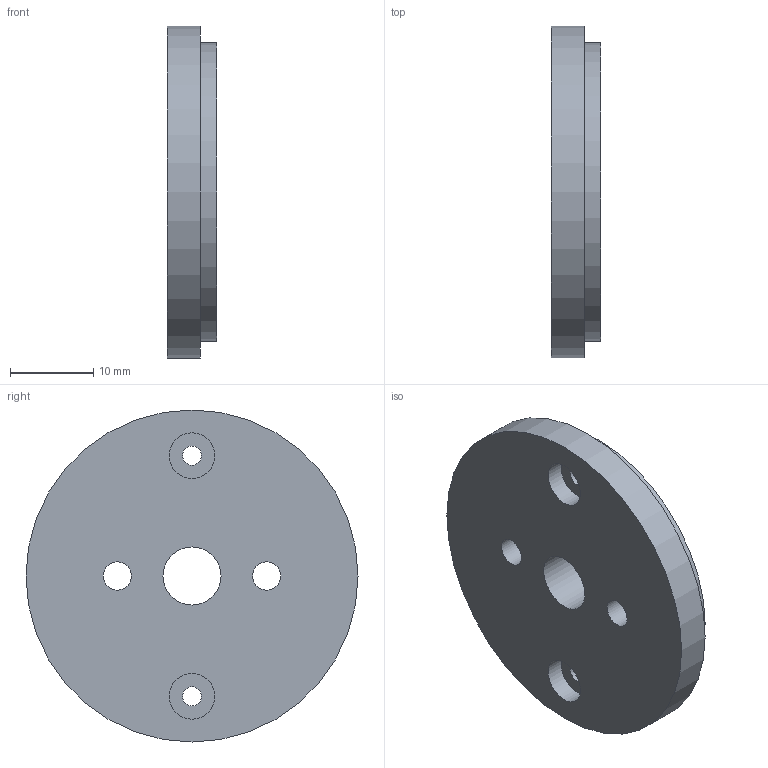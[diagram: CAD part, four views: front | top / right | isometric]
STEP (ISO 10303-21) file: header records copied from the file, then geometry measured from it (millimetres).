
FILE_DESCRIPTION(('FreeCAD Model'),'2;1');
FILE_NAME('Open CASCADE Shape Model','2026-11-07T16:11:58',('FreeCAD'),( 'FreeCAD'),'Open CASCADE STEP processor 7.8','FreeCAD','Unknown');
FILE_SCHEMA(('AUTOMOTIVE_DESIGN { 1 0 10303 214 1 1 1 1 }'));
Length unit declared in the file: millimetre
Products named in the file (1): Open CASCADE STEP translator 7.8 9
Bounding box: 6 x 40 x 40 mm (x, y, z)
Volume: 6586.3 mm3; surface area: 3503.3 mm2
Topology: 1 solids, 1 shells, 14 faces, 27 edges, 18 vertices
Faces by surface type: cylinder 9, plane 5
Full cylindrical faces by diameter (mm): 2.3 x2, 3.4 x2, 5.5 x2, 7 x1, 36 x1, 40 x1
Entity records: 399 total; most frequent: DIRECTION 75, CARTESIAN_POINT 60, ORIENTED_EDGE 54, AXIS2_PLACEMENT_3D 33, FACE_BOUND 27, EDGE_LOOP 27, EDGE_CURVE 27, VERTEX_POINT 18
